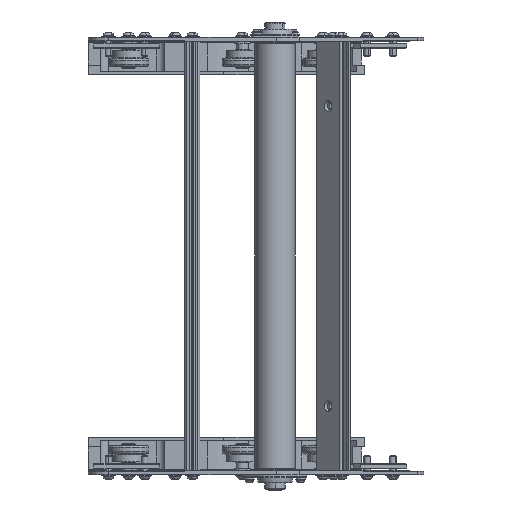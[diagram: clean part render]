
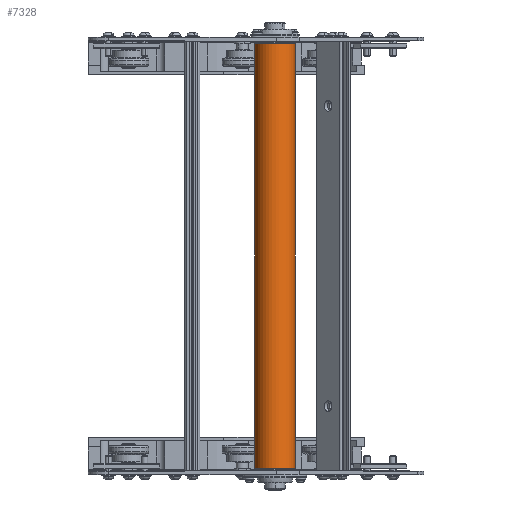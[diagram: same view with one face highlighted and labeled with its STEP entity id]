
A CAD part, front view. The second image highlights one B-rep face of the part: STEP entity #7328.
In plain terms, the highlighted cylindrical face has radius 25 mm (diameter 50 mm), a partial arc.
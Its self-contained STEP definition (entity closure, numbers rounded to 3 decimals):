
#87 = AXIS2_PLACEMENT_3D ( 'NONE', #14291, #10688, #19373 ) ;
#89 = EDGE_CURVE ( 'NONE', #7112, #11315, #18608, .T. ) ;
#113 = CARTESIAN_POINT ( 'NONE',  ( -25., 0., -263.5 ) ) ;
#292 = LINE ( 'NONE', #1926, #6679 ) ;
#779 = DIRECTION ( 'NONE',  ( 0., 0., 1. ) ) ;
#1412 = ORIENTED_EDGE ( 'NONE', *, *, #89, .F. ) ;
#1540 = CARTESIAN_POINT ( 'NONE',  ( 25., 0., -263.5 ) ) ;
#1783 = ORIENTED_EDGE ( 'NONE', *, *, #10368, .F. ) ;
#1886 = DIRECTION ( 'NONE',  ( 0., 0., 1. ) ) ;
#1926 = CARTESIAN_POINT ( 'NONE',  ( 25., 0., -263.5 ) ) ;
#4141 = CARTESIAN_POINT ( 'NONE',  ( 0., 0., -263.5 ) ) ;
#5665 = CIRCLE ( 'NONE', #19271, 25. ) ;
#6679 = VECTOR ( 'NONE', #779, 1000. ) ;
#7112 = VERTEX_POINT ( 'NONE', #8235 ) ;
#7328 = ADVANCED_FACE ( 'NONE', ( #19166 ), #7888, .T. ) ;
#7888 = CYLINDRICAL_SURFACE ( 'NONE', #11882, 25. ) ;
#8235 = CARTESIAN_POINT ( 'NONE',  ( -25., 0., -263.5 ) ) ;
#9378 = DIRECTION ( 'NONE',  ( 0., 0., 1. ) ) ;
#10359 = VERTEX_POINT ( 'NONE', #16645 ) ;
#10368 = EDGE_CURVE ( 'NONE', #21359, #7112, #5665, .T. ) ;
#10643 = VECTOR ( 'NONE', #1886, 1000. ) ;
#10688 = DIRECTION ( 'NONE',  ( 0., 0., -1. ) ) ;
#11315 = VERTEX_POINT ( 'NONE', #16390 ) ;
#11327 = EDGE_LOOP ( 'NONE', ( #1412, #1783, #17065, #17628 ) ) ;
#11343 = DIRECTION ( 'NONE',  ( 0., 0., -1. ) ) ;
#11792 = EDGE_CURVE ( 'NONE', #10359, #11315, #18537, .T. ) ;
#11882 = AXIS2_PLACEMENT_3D ( 'NONE', #4141, #9378, #18286 ) ;
#13011 = EDGE_CURVE ( 'NONE', #21359, #10359, #292, .T. ) ;
#14291 = CARTESIAN_POINT ( 'NONE',  ( 0., 0., 263.5 ) ) ;
#14807 = DIRECTION ( 'NONE',  ( -1., 0., 0. ) ) ;
#16390 = CARTESIAN_POINT ( 'NONE',  ( -25., 0., 263.5 ) ) ;
#16645 = CARTESIAN_POINT ( 'NONE',  ( 25., 0., 263.5 ) ) ;
#17065 = ORIENTED_EDGE ( 'NONE', *, *, #13011, .T. ) ;
#17628 = ORIENTED_EDGE ( 'NONE', *, *, #11792, .T. ) ;
#18286 = DIRECTION ( 'NONE',  ( 1., 0., 0. ) ) ;
#18537 = CIRCLE ( 'NONE', #87, 25. ) ;
#18608 = LINE ( 'NONE', #113, #10643 ) ;
#19166 = FACE_OUTER_BOUND ( 'NONE', #11327, .T. ) ;
#19271 = AXIS2_PLACEMENT_3D ( 'NONE', #21890, #11343, #14807 ) ;
#19373 = DIRECTION ( 'NONE',  ( -1., 0., 0. ) ) ;
#21359 = VERTEX_POINT ( 'NONE', #1540 ) ;
#21890 = CARTESIAN_POINT ( 'NONE',  ( 0., 0., -263.5 ) ) ;
